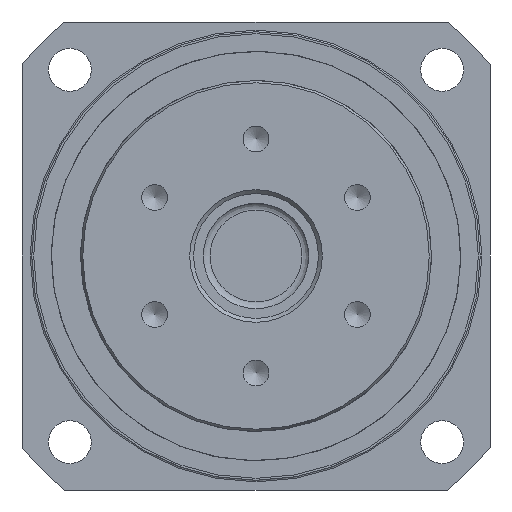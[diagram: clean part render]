
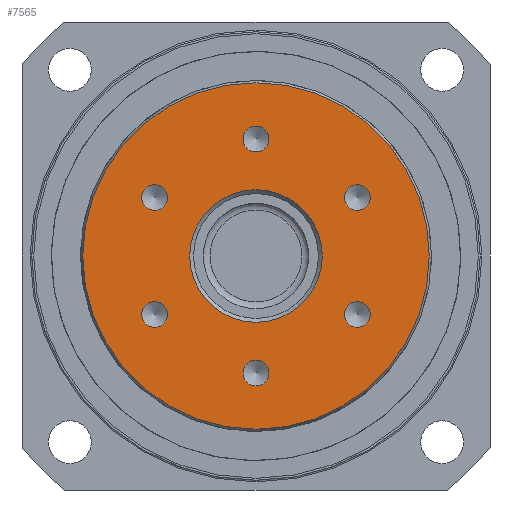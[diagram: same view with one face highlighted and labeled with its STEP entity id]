
A CAD part, left-side view. The second image highlights one B-rep face of the part: STEP entity #7565.
In plain terms, the highlighted planar face has unit normal (-1, 0, 0).
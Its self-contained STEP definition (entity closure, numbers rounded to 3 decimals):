
#663=FACE_BOUND('',#2052,.T.);
#664=FACE_BOUND('',#2053,.T.);
#665=FACE_BOUND('',#2054,.T.);
#666=FACE_BOUND('',#2055,.T.);
#667=FACE_BOUND('',#2056,.T.);
#668=FACE_BOUND('',#2057,.T.);
#669=FACE_BOUND('',#2058,.T.);
#1425=PLANE('',#8523);
#1603=FACE_OUTER_BOUND('',#2051,.T.);
#2051=EDGE_LOOP('',(#5611));
#2052=EDGE_LOOP('',(#5612,#5613));
#2053=EDGE_LOOP('',(#5614,#5615));
#2054=EDGE_LOOP('',(#5616,#5617));
#2055=EDGE_LOOP('',(#5618,#5619));
#2056=EDGE_LOOP('',(#5620,#5621));
#2057=EDGE_LOOP('',(#5622,#5623));
#2058=EDGE_LOOP('',(#5624));
#2641=CIRCLE('',#8487,3.324);
#2642=CIRCLE('',#8488,3.324);
#2645=CIRCLE('',#8493,3.324);
#2646=CIRCLE('',#8494,3.324);
#2649=CIRCLE('',#8499,3.324);
#2650=CIRCLE('',#8500,3.324);
#2653=CIRCLE('',#8505,3.324);
#2654=CIRCLE('',#8506,3.324);
#2657=CIRCLE('',#8511,3.324);
#2658=CIRCLE('',#8512,3.324);
#2661=CIRCLE('',#8517,3.324);
#2662=CIRCLE('',#8518,3.324);
#2663=CIRCLE('',#8520,17.);
#2666=CIRCLE('',#8524,44.423);
#3399=VERTEX_POINT('',#12574);
#3400=VERTEX_POINT('',#12575);
#3404=VERTEX_POINT('',#12587);
#3405=VERTEX_POINT('',#12588);
#3409=VERTEX_POINT('',#12600);
#3410=VERTEX_POINT('',#12601);
#3414=VERTEX_POINT('',#12613);
#3415=VERTEX_POINT('',#12614);
#3419=VERTEX_POINT('',#12626);
#3420=VERTEX_POINT('',#12627);
#3424=VERTEX_POINT('',#12639);
#3425=VERTEX_POINT('',#12640);
#3426=VERTEX_POINT('',#12645);
#3429=VERTEX_POINT('',#12653);
#4323=EDGE_CURVE('',#3399,#3400,#2641,.T.);
#4324=EDGE_CURVE('',#3400,#3399,#2642,.T.);
#4329=EDGE_CURVE('',#3404,#3405,#2645,.T.);
#4330=EDGE_CURVE('',#3405,#3404,#2646,.T.);
#4335=EDGE_CURVE('',#3409,#3410,#2649,.T.);
#4336=EDGE_CURVE('',#3410,#3409,#2650,.T.);
#4341=EDGE_CURVE('',#3414,#3415,#2653,.T.);
#4342=EDGE_CURVE('',#3415,#3414,#2654,.T.);
#4347=EDGE_CURVE('',#3419,#3420,#2657,.T.);
#4348=EDGE_CURVE('',#3420,#3419,#2658,.T.);
#4353=EDGE_CURVE('',#3424,#3425,#2661,.T.);
#4354=EDGE_CURVE('',#3425,#3424,#2662,.T.);
#4356=EDGE_CURVE('',#3426,#3426,#2663,.T.);
#4360=EDGE_CURVE('',#3429,#3429,#2666,.T.);
#5611=ORIENTED_EDGE('',*,*,#4360,.F.);
#5612=ORIENTED_EDGE('',*,*,#4323,.T.);
#5613=ORIENTED_EDGE('',*,*,#4324,.T.);
#5614=ORIENTED_EDGE('',*,*,#4329,.T.);
#5615=ORIENTED_EDGE('',*,*,#4330,.T.);
#5616=ORIENTED_EDGE('',*,*,#4335,.T.);
#5617=ORIENTED_EDGE('',*,*,#4336,.T.);
#5618=ORIENTED_EDGE('',*,*,#4341,.T.);
#5619=ORIENTED_EDGE('',*,*,#4342,.T.);
#5620=ORIENTED_EDGE('',*,*,#4347,.T.);
#5621=ORIENTED_EDGE('',*,*,#4348,.T.);
#5622=ORIENTED_EDGE('',*,*,#4353,.T.);
#5623=ORIENTED_EDGE('',*,*,#4354,.T.);
#5624=ORIENTED_EDGE('',*,*,#4356,.F.);
#7565=ADVANCED_FACE('',(#1603,#663,#664,#665,#666,#667,#668,#669),#1425,
 .T.);
#8487=AXIS2_PLACEMENT_3D('',#12576,#9882,#9883);
#8488=AXIS2_PLACEMENT_3D('',#12577,#9884,#9885);
#8493=AXIS2_PLACEMENT_3D('',#12589,#9896,#9897);
#8494=AXIS2_PLACEMENT_3D('',#12590,#9898,#9899);
#8499=AXIS2_PLACEMENT_3D('',#12602,#9910,#9911);
#8500=AXIS2_PLACEMENT_3D('',#12603,#9912,#9913);
#8505=AXIS2_PLACEMENT_3D('',#12615,#9924,#9925);
#8506=AXIS2_PLACEMENT_3D('',#12616,#9926,#9927);
#8511=AXIS2_PLACEMENT_3D('',#12628,#9938,#9939);
#8512=AXIS2_PLACEMENT_3D('',#12629,#9940,#9941);
#8517=AXIS2_PLACEMENT_3D('',#12641,#9952,#9953);
#8518=AXIS2_PLACEMENT_3D('',#12642,#9954,#9955);
#8520=AXIS2_PLACEMENT_3D('',#12646,#9959,#9960);
#8523=AXIS2_PLACEMENT_3D('',#12652,#9966,#9967);
#8524=AXIS2_PLACEMENT_3D('',#12654,#9968,#9969);
#9882=DIRECTION('center_axis',(1.,0.,0.));
#9883=DIRECTION('ref_axis',(0.,0.866,0.5));
#9884=DIRECTION('center_axis',(1.,0.,0.));
#9885=DIRECTION('ref_axis',(0.,0.866,0.5));
#9896=DIRECTION('center_axis',(1.,0.,0.));
#9897=DIRECTION('ref_axis',(0.,0.866,-0.5));
#9898=DIRECTION('center_axis',(1.,0.,0.));
#9899=DIRECTION('ref_axis',(0.,0.866,-0.5));
#9910=DIRECTION('center_axis',(1.,0.,0.));
#9911=DIRECTION('ref_axis',(0.,0.,-1.));
#9912=DIRECTION('center_axis',(1.,0.,0.));
#9913=DIRECTION('ref_axis',(0.,0.,-1.));
#9924=DIRECTION('center_axis',(1.,0.,0.));
#9925=DIRECTION('ref_axis',(0.,-0.866,-0.5));
#9926=DIRECTION('center_axis',(1.,0.,0.));
#9927=DIRECTION('ref_axis',(0.,-0.866,-0.5));
#9938=DIRECTION('center_axis',(1.,0.,0.));
#9939=DIRECTION('ref_axis',(0.,-0.866,0.5));
#9940=DIRECTION('center_axis',(1.,0.,0.));
#9941=DIRECTION('ref_axis',(0.,-0.866,0.5));
#9952=DIRECTION('center_axis',(1.,0.,0.));
#9953=DIRECTION('ref_axis',(0.,0.,1.));
#9954=DIRECTION('center_axis',(1.,0.,0.));
#9955=DIRECTION('ref_axis',(0.,0.,1.));
#9959=DIRECTION('center_axis',(-1.,0.,0.));
#9960=DIRECTION('ref_axis',(0.,-1.,0.));
#9966=DIRECTION('center_axis',(-1.,0.,0.));
#9967=DIRECTION('ref_axis',(0.,0.,1.));
#9968=DIRECTION('center_axis',(1.,0.,0.));
#9969=DIRECTION('ref_axis',(0.,-1.,0.));
#12574=CARTESIAN_POINT('',(0.,28.859,16.662));
#12575=CARTESIAN_POINT('',(0.,23.103,13.338));
#12576=CARTESIAN_POINT('Origin',(0.,25.981,15.));
#12577=CARTESIAN_POINT('Origin',(0.,25.981,15.));
#12587=CARTESIAN_POINT('',(0.,28.859,-16.662));
#12588=CARTESIAN_POINT('',(0.,23.103,-13.338));
#12589=CARTESIAN_POINT('Origin',(0.,25.981,-15.));
#12590=CARTESIAN_POINT('Origin',(0.,25.981,-15.));
#12600=CARTESIAN_POINT('',(0.,0.,-33.324));
#12601=CARTESIAN_POINT('',(0.,0.,-26.677));
#12602=CARTESIAN_POINT('Origin',(0.,0.,-30.));
#12603=CARTESIAN_POINT('Origin',(0.,0.,-30.));
#12613=CARTESIAN_POINT('',(0.,-28.859,-16.662));
#12614=CARTESIAN_POINT('',(0.,-23.103,-13.338));
#12615=CARTESIAN_POINT('Origin',(0.,-25.981,-15.));
#12616=CARTESIAN_POINT('Origin',(0.,-25.981,-15.));
#12626=CARTESIAN_POINT('',(0.,-28.859,16.662));
#12627=CARTESIAN_POINT('',(0.,-23.103,13.338));
#12628=CARTESIAN_POINT('Origin',(0.,-25.981,15.));
#12629=CARTESIAN_POINT('Origin',(0.,-25.981,15.));
#12639=CARTESIAN_POINT('',(0.,0.,33.324));
#12640=CARTESIAN_POINT('',(0.,0.,26.677));
#12641=CARTESIAN_POINT('Origin',(0.,0.,30.));
#12642=CARTESIAN_POINT('Origin',(0.,0.,30.));
#12645=CARTESIAN_POINT('',(0.,17.,0.));
#12646=CARTESIAN_POINT('Origin',(0.,0.,0.));
#12652=CARTESIAN_POINT('Origin',(0.,45.,0.));
#12653=CARTESIAN_POINT('',(0.,44.423,0.));
#12654=CARTESIAN_POINT('Origin',(0.,0.,0.));
